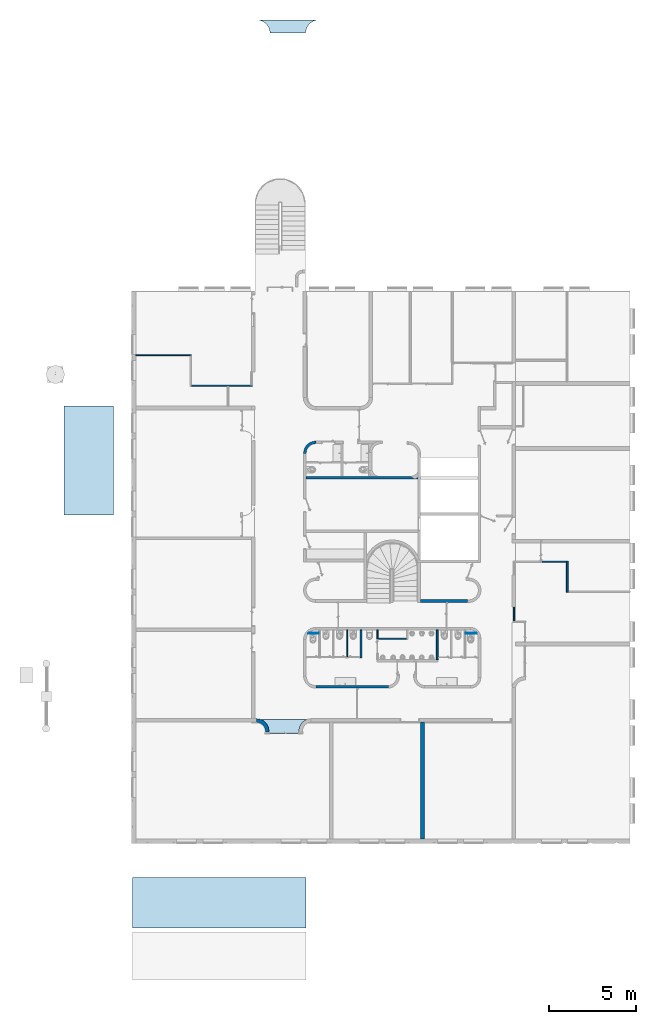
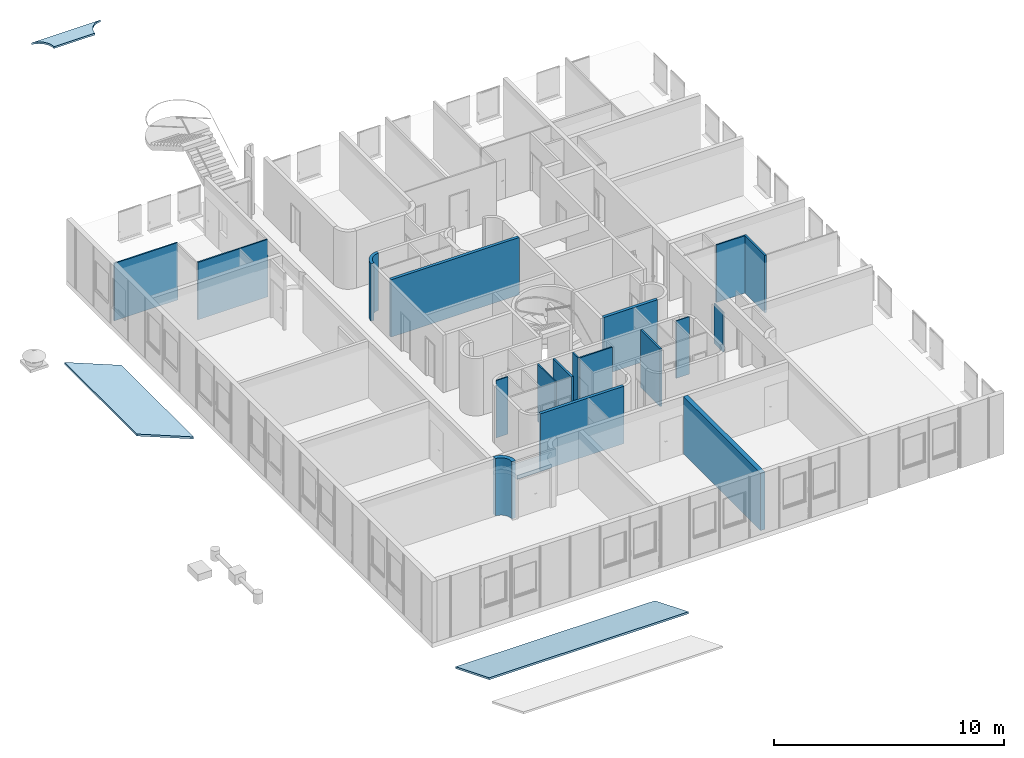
# One storey, part 1 of 4: 18 walls, 4 slabs.
"""IFC2X3 building model written with IfcOpenShell, lengths in metres."""

from ifc_helpers import new_model, entity, si_unit, converted_unit, derived_unit, direction, frame, frame_2d, origin, place, context, subcontext, project, spatial, polyline, circle_curve, parameter, trimmed, segment, composite_curve, rectangle, outline, extrude, clip, halfspace, bounded_halfspace, material, layer, layer_set, layer_usage, type_object, element, save


model = new_model("IFC2X3")

# Units and contexts
model_context = context("Model", 3, precision=1e-05, world=origin(), true_north=direction((6.12303176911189e-17, 1.0)))
body_context = subcontext(model_context, "Body", "Model", "MODEL_VIEW")
ifc_project = project(units=[si_unit("LENGTHUNIT", "METRE"), si_unit("AREAUNIT", "SQUARE_METRE"), si_unit("VOLUMEUNIT", "CUBIC_METRE"), converted_unit("PLANEANGLEUNIT", "DEGREE", entity("IfcRatioMeasure", 0.0174532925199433), si_unit("PLANEANGLEUNIT", "RADIAN"), dimensions=[0, 0, 0, 0, 0, 0, 0]), si_unit("MASSUNIT", "GRAM", prefix="KILO"), derived_unit("MASSDENSITYUNIT", [(si_unit("MASSUNIT", "GRAM", prefix="KILO"), 1), (si_unit("LENGTHUNIT", "METRE"), -3)]), derived_unit("MOMENTOFINERTIAUNIT", [(si_unit("LENGTHUNIT", "METRE"), 4)]), si_unit("TIMEUNIT", "SECOND"), si_unit("FREQUENCYUNIT", "HERTZ"), si_unit("THERMODYNAMICTEMPERATUREUNIT", "DEGREE_CELSIUS"), derived_unit("THERMALTRANSMITTANCEUNIT", [(si_unit("MASSUNIT", "GRAM", prefix="KILO"), 1), (si_unit("THERMODYNAMICTEMPERATUREUNIT", "KELVIN"), -1), (si_unit("TIMEUNIT", "SECOND"), -3)]), derived_unit("VOLUMETRICFLOWRATEUNIT", [(si_unit("LENGTHUNIT", "METRE"), 3), (si_unit("TIMEUNIT", "SECOND"), -1)]), si_unit("ELECTRICCURRENTUNIT", "AMPERE"), si_unit("ELECTRICVOLTAGEUNIT", "VOLT"), si_unit("POWERUNIT", "WATT"), si_unit("FORCEUNIT", "NEWTON", prefix="KILO"), si_unit("ILLUMINANCEUNIT", "LUX"), si_unit("LUMINOUSFLUXUNIT", "LUMEN"), si_unit("LUMINOUSINTENSITYUNIT", "CANDELA"), derived_unit("USERDEFINED", [(si_unit("MASSUNIT", "GRAM", prefix="KILO"), -1), (si_unit("LENGTHUNIT", "METRE"), -2), (si_unit("TIMEUNIT", "SECOND"), 3), (si_unit("LUMINOUSFLUXUNIT", "LUMEN"), 1)]), derived_unit("LINEARVELOCITYUNIT", [(si_unit("LENGTHUNIT", "METRE"), 1), (si_unit("TIMEUNIT", "SECOND"), -1)]), si_unit("PRESSUREUNIT", "PASCAL"), derived_unit("USERDEFINED", [(si_unit("LENGTHUNIT", "METRE"), -2), (si_unit("MASSUNIT", "GRAM", prefix="KILO"), 1), (si_unit("TIMEUNIT", "SECOND"), -2)]), derived_unit("LINEARFORCEUNIT", [(si_unit("MASSUNIT", "GRAM", prefix="KILO"), 1), (si_unit("LENGTHUNIT", "METRE"), 1), (si_unit("TIMEUNIT", "SECOND"), -2), (si_unit("LENGTHUNIT", "METRE"), -1)]), derived_unit("PLANARFORCEUNIT", [(si_unit("MASSUNIT", "GRAM", prefix="KILO"), 1), (si_unit("LENGTHUNIT", "METRE"), 1), (si_unit("TIMEUNIT", "SECOND"), -2), (si_unit("LENGTHUNIT", "METRE"), -2)])], contexts=[model_context])

# Site, building, storey
site_placement = place(None, origin())
site = spatial("IfcSite", under=ifc_project, at=site_placement, Name="Default", CompositionType="ELEMENT")
building_placement = place(site_placement, origin())
building = spatial("IfcBuilding", under=site, at=building_placement, CompositionType="ELEMENT")
storey_placement = place(building_placement, frame((0.0, 0.0, 4.12187276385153)))
storey = spatial("IfcBuildingStorey", under=building, at=storey_placement, Name="Niveau 1", CompositionType="ELEMENT", Elevation=4.12187276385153)

# Slabs
ifc_material_1 = material(Name="Asphalte, bitume")
ifc_layer_1 = layer(ifc_material_1, 0.1)
ifc_layer_set_1 = layer_set([ifc_layer_1], Name="Sol:Générique 100 mm - Plein")
ifc_layer_usage_1 = layer_usage(ifc_layer_set_1, "AXIS3", "POSITIVE", 0.0)
slab_type_1 = type_object("IfcSlabType", Name="Sol:Générique 100 mm - Plein", PredefinedType="FLOOR", material=ifc_layer_set_1)
slab_1_placement = place(storey_placement, origin())
element("IfcSlab", 1, at=slab_1_placement, inside=storey, type_object=slab_type_1, material=ifc_layer_usage_1, Name="Sol:Générique 100 mm - Plein", ObjectType="Sol:Générique 100 mm - Plein", PredefinedType="FLOOR", context=body_context, shape_type="SweptSolid", body=[
    extrude(outline(composite_curve([segment(trimmed(circle_curve(frame_2d((-1.78859422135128, 0.387919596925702), x_axis=(0.0759319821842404, -0.99711299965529)), 0.761524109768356), [parameter(0.0)], [parameter(84.4026734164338)], True, "PARAMETER"), False, "CONTINUOUS"), segment(polyline([(-1.73077018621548, -0.37140599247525), (1.73077018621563, -0.371405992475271)]), True, "CONTINUOUS"), segment(trimmed(circle_curve(frame_2d((1.78859422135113, 0.387919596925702), x_axis=(-0.99976485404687, -0.0216849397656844)), 0.761524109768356), [parameter(0.0)], [parameter(84.4026734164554)], True, "PARAMETER"), False, "CONTINUOUS"), segment(polyline([(1.0272491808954, 0.371405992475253), (-1.02724918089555, 0.37140599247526)]), True, "CONTINUOUS")], self_intersect=False)), frame((-16.8528577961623, 25.820198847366, 0.56983551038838), z_axis=(0.0, 0.0, 1.0), x_axis=(-1.0, 0.0, 0.0)), (0.0, 0.0, -1.0), 0.1),
])
ifc_material_2 = material(Name="Béton, coulé sur place")
ifc_layer_2 = layer(ifc_material_2, 0.2)
ifc_layer_set_2 = layer_set([ifc_layer_2], Name="Sol:Dalle béton 200mm")
ifc_layer_usage_2 = layer_usage(ifc_layer_set_2, "AXIS3", "POSITIVE", 0.0)
slab_type_2 = type_object("IfcSlabType", Name="Sol:Dalle béton 200mm", PredefinedType="FLOOR")
slab_2_placement = place(storey_placement, frame((-19.4581879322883, -14.8878529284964, 2.1)))
element("IfcSlab", 2, at=slab_2_placement, inside=storey, type_object=slab_type_2, material=ifc_layer_usage_2, Name="Sol:Dalle béton 200mm", ObjectType="Sol:Dalle béton 200mm", PredefinedType="FLOOR", context=body_context, shape_type="SweptSolid", body=[
    extrude(outline(composite_curve([segment(polyline([(4.85704727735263, -9.31436889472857), (6.59882761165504, -9.31436889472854)]), True, "CONTINUOUS"), segment(polyline([(6.59882761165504, -9.31436889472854), (6.59882761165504, -9.18780574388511)]), True, "CONTINUOUS"), segment(trimmed(circle_curve(frame_2d((7.30370249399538, -9.20108731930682), x_axis=(-1.0, 0.0)), 0.705), [parameter(270.338353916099)], [parameter(358.920534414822)], True, "PARAMETER"), False, "CONTINUOUS"), segment(polyline([(7.29953921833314, -8.49609961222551), (7.30128770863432, -8.49563110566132)]), True, "CONTINUOUS"), segment(polyline([(7.30128770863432, -8.49563110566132), (4.39101420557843, -8.49563110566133)]), True, "CONTINUOUS"), segment(trimmed(circle_curve(frame_2d((4.15205895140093, -9.15889981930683), x_axis=(-1.0, 0.0)), 0.705), [parameter(179.670273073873)], [parameter(250.187473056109)], True, "PARAMETER"), False, "CONTINUOUS"), segment(polyline([(4.85704727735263, -9.16295694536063), (4.85704727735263, -9.31436889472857)]), True, "CONTINUOUS")], self_intersect=False)), frame((8.11158430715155, 9.31436889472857, 0.2), z_axis=(0.0, 0.0, -1.0), x_axis=(-1.0, 0.0, 0.0)), (0.0, 0.0, 1.0), 0.2),
])
ifc_material_3 = material(Name="étanchéité Isolation")
ifc_layer_3 = layer(ifc_material_3, 0.1)
ifc_layer_set_3 = layer_set([ifc_layer_3], Name="Sol:étanchéité terrasse 100mm")
ifc_layer_usage_3 = layer_usage(ifc_layer_set_3, "AXIS3", "POSITIVE", 0.0)
slab_type_3 = type_object("IfcSlabType", Name="Sol:étanchéité terrasse 100mm", PredefinedType="FLOOR", material=ifc_layer_set_3)
slab_3_placement = place(storey_placement, origin())
element("IfcSlab", 3, at=slab_3_placement, inside=storey, type_object=slab_type_3, material=ifc_layer_usage_3, Name="Sol:étanchéité terrasse 100mm", ObjectType="Sol:étanchéité terrasse 100mm", PredefinedType="FLOOR", context=body_context, shape_type="Clipping", body=[
    clip(clip(extrude(rectangle(XDim=3.13853610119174, YDim=9.99631947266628, at=frame_2d((8.88178419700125e-16, 9.32587340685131e-15), x_axis=(0.0, 1.0))), frame((-20.7958294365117, -24.6235714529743, 0.523417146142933), z_axis=(0.0, -0.374606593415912, -0.927183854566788), x_axis=(1.0, 0.0, 0.0)), (0.0, -0.374606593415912, 0.927183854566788), 0.116323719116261), halfspace(frame((-20.7897946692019, -21.7385714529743, -0.750051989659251), z_axis=(0.0, -0.374606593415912, -0.927183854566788), x_axis=(0.0, -0.927183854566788, 0.374606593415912)), False)), halfspace(frame((-20.7897946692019, -21.7385714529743, -0.642198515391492), z_axis=(0.0, 0.374606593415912, 0.927183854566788), x_axis=(0.0, 0.927183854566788, -0.374606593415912)), False)),
])
ifc_layer_usage_4 = layer_usage(ifc_layer_set_3, "AXIS3", "POSITIVE", 0.0)
slab_type_4 = type_object("IfcSlabType", Name="Sol:étanchéité terrasse 100mm", PredefinedType="FLOOR", material=ifc_layer_set_3)
slab_4_placement = place(storey_placement, origin())
element("IfcSlab", 4, at=slab_4_placement, inside=storey, type_object=slab_type_4, material=ifc_layer_usage_4, Name="Sol:étanchéité terrasse 100mm", ObjectType="Sol:étanchéité terrasse 100mm", PredefinedType="FLOOR", context=body_context, shape_type="Clipping", body=[
    clip(clip(extrude(rectangle(XDim=3.07382401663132, YDim=6.27500000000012, at=frame_2d((4.88498130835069e-15, 2.33146835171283e-15), x_axis=(0.0, 1.0))), frame((-28.3185797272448, 0.844677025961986, 0.423618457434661), z_axis=(-0.374606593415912, 0.0, -0.927183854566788), x_axis=(0.0, 1.0, 0.0)), (0.0, 0.374606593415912, 0.927183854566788), 0.11632371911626), halfspace(frame((-25.3835797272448, -1.10201747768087, -0.870051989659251), z_axis=(-0.374606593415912, 0.0, -0.927183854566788), x_axis=(-0.927183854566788, 0.0, 0.374606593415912)), False)), halfspace(frame((-25.3835797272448, -1.10201747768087, -0.762198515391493), z_axis=(0.374606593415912, 0.0, 0.927183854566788), x_axis=(0.927183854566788, 0.0, -0.374606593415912)), False)),
])

# Walls
ifc_material_4 = material(Name="Verre")
ifc_layer_4 = layer(ifc_material_4, 0.07)
ifc_layer_set_4 = layer_set([ifc_layer_4], Name="Mur de base:Mur en verre 70")
ifc_layer_usage_5 = layer_usage(ifc_layer_set_4, "AXIS2", "NEGATIVE", 0.035)
wall_type_1 = type_object("IfcWallType", Name="Mur de base:Mur en verre 70", PredefinedType="STANDARD", material=ifc_layer_set_4)
wall_1_placement = place(storey_placement, frame((-22.4089891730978, 6.88588486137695, 0.0), z_axis=(0.0, 0.0, 1.0), x_axis=(-1.0, 0.0, 0.0)))
element("IfcWallStandardCase", 5, at=wall_1_placement, inside=storey, type_object=wall_type_1, material=ifc_layer_usage_5, Name="Mur de base:Mur en verre 70", ObjectType="Mur de base:Mur en verre 70", context=body_context, shape_type="Clipping", body=[
    clip(extrude(rectangle(XDim=3.18500000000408, YDim=0.0699999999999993, at=frame_2d((1.59250000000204, -1.42247325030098e-16), x_axis=(-1.0, 0.0))), origin(), (0.0, 0.0, 1.0), 3.04543551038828), bounded_halfspace(frame((0.0, -0.0350000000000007, 3.04543551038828), z_axis=(0.0, 0.0, -1.0), x_axis=(0.0, -1.0, 0.0)), True, frame((0.0, -0.0350000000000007, 3.04543551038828)), polyline([(0.0, 0.0), (3.18500000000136, 0.0), (3.18499999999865, 0.0699999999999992), (0.0699999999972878, 0.0700000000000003), (0.0, 0.0700000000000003), (0.0, 0.0)]))),
])
ifc_layer_usage_6 = layer_usage(ifc_layer_set_4, "AXIS2", "NEGATIVE", 0.035)
wall_2_placement = place(storey_placement, frame((-18.903989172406, 5.13588486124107, 0.0), z_axis=(0.0, 0.0, 1.0), x_axis=(-1.0, 0.0, 0.0)))
element("IfcWallStandardCase", 6, at=wall_2_placement, inside=storey, type_object=wall_type_1, material=ifc_layer_usage_6, Name="Mur de base:Mur en verre 70", ObjectType="Mur de base:Mur en verre 70", context=body_context, shape_type="Clipping", body=[
    clip(extrude(rectangle(XDim=3.5050000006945, YDim=0.0699999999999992, at=frame_2d((1.75250000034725, 1.66533453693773e-16), x_axis=(-1.0, 0.0))), origin(), (0.0, 0.0, 1.0), 3.04543551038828), bounded_halfspace(frame((0.0, -0.0350000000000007, 3.04543551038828), z_axis=(0.0, 0.0, -1.0), x_axis=(0.0, -1.0, 0.0)), True, frame((0.0, -0.0350000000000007, 3.04543551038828)), polyline([(0.0, 0.0), (0.0699999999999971, 0.0), (3.5050000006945, 0.0), (3.50500000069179, 0.0700000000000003), (1.43000000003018, 0.0700000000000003), (1.36000000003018, 0.0700000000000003), (0.0, 0.0700000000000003), (0.0, 0.0)]))),
])
ifc_layer_usage_7 = layer_usage(ifc_layer_set_4, "AXIS2", "NEGATIVE", 0.035)
wall_3_placement = place(storey_placement, frame((-3.82898917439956, -8.41874943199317, 0.0), z_axis=(0.0, 0.0, 1.0), x_axis=(0.0, 1.0, 0.0)))
element("IfcWallStandardCase", 7, at=wall_3_placement, inside=storey, type_object=wall_type_1, material=ifc_layer_usage_7, Name="Mur de base:Mur en verre 70", ObjectType="Mur de base:Mur en verre 70", context=body_context, shape_type="SweptSolid", body=[
    extrude(rectangle(XDim=0.80900093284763, YDim=0.0700000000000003, at=frame_2d((0.404500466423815, -5.89805981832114e-17), x_axis=(-1.0, 0.0))), origin(), (0.0, 0.0, 1.0), 2.1),
])
ifc_material_5 = material(Name="Mur par défaut")
ifc_layer_5 = layer(ifc_material_5, 0.2)
ifc_layer_set_5 = layer_set([ifc_layer_5], Name="Mur de base:@_Générique - Int. 200 mm")
ifc_layer_usage_8 = layer_usage(ifc_layer_set_5, "AXIS2", "NEGATIVE", 0.1)
wall_type_2 = type_object("IfcWallType", Name="Mur de base:@_Générique - Int. 200 mm", PredefinedType="STANDARD", material=ifc_layer_set_5)
wall_4_placement = place(storey_placement, frame((-18.0487427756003, -14.798496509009, 0.0), z_axis=(0.0, 0.0, 1.0), x_axis=(0.976975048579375, -0.213353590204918, 0.0)))
element("IfcWallStandardCase", 8, at=wall_4_placement, inside=storey, type_object=wall_type_2, material=ifc_layer_usage_8, Name="Mur de base:@_Générique - Int. 200 mm", ObjectType="Mur de base:@_Générique - Int. 200 mm", context=body_context, shape_type="Clipping", body=[
    clip(extrude(outline(composite_curve([segment(trimmed(circle_curve(frame_2d((-0.601450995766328, -0.0654346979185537), x_axis=(1.0, 0.0)), 0.505), [parameter(6.20905822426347)], [parameter(101.95370568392)], True, "PARAMETER"), False, "CONTINUOUS"), segment(polyline([(-0.0994133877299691, -0.0108156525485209), (0.0967794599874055, 0.0320292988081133)]), True, "CONTINUOUS"), segment(trimmed(circle_curve(frame_2d((-0.601450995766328, -0.0654346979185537), x_axis=(1.0, 0.0)), 0.705), [parameter(7.94640902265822)], [parameter(101.95370568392)], True, "PARAMETER"), True, "CONTINUOUS"), segment(polyline([(-0.747471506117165, 0.624277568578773), (-0.70604724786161, 0.428614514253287)]), True, "CONTINUOUS")], self_intersect=False)), origin(), (0.0, 0.0, 1.0), 3.04543551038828), halfspace(frame((-0.70604724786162, 0.428614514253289, 3.04543551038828), z_axis=(0.0, 0.0, -1.0), x_axis=(-0.213353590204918, 0.976975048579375, 0.0)), True)),
])
ifc_material_6 = material(Name="Brique 55x220")
ifc_layer_6 = layer(ifc_material_6, 0.01)
ifc_material_7 = material(Name="Maçonnerie - Voile BA")
ifc_layer_7 = layer(ifc_material_7, 0.2)
ifc_layer_8 = layer(ifc_material_6, 0.01)
ifc_layer_set_6 = layer_set([ifc_layer_6, ifc_layer_7, ifc_layer_8], Name="Mur de base:Ext. Voile BA 200 Brique")
ifc_layer_usage_9 = layer_usage(ifc_layer_set_6, "AXIS2", "NEGATIVE", 0.11)
wall_type_3 = type_object("IfcWallType", Name="Mur de base:Ext. Voile BA 200 Brique", PredefinedType="STANDARD", material=ifc_layer_set_6)
wall_5_placement = place(storey_placement, frame((-9.10398917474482, -20.9562530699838, 0.0), z_axis=(0.0, 0.0, 1.0), x_axis=(0.0, 1.0, 0.0)))
element("IfcWallStandardCase", 9, at=wall_5_placement, inside=storey, type_object=wall_type_3, material=ifc_layer_usage_9, Name="Mur de base:Ext. Voile BA 200 Brique", ObjectType="Mur de base:Ext. Voile BA 200 Brique", context=body_context, shape_type="Clipping", body=[
    clip(extrude(rectangle(XDim=6.72713793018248, YDim=0.22, at=frame_2d((3.36356896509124, 0.0), x_axis=(-1.0, 0.0))), origin(), (0.0, 0.0, 1.0), 3.04543551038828), bounded_halfspace(frame((0.0, -0.11, 3.04543551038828), z_axis=(0.0, 0.0, -1.0), x_axis=(1.0, 0.0, 0.0)), True, frame((0.0, -0.11, 3.04543551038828)), polyline([(0.0, 0.0), (6.72713793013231, 0.0), (6.72713793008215, 0.219999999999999), (0.0, 0.22), (0.0, 0.0)]))),
])
ifc_layer_9 = layer(ifc_material_5, 0.1)
ifc_layer_set_7 = layer_set([ifc_layer_9], Name="Mur de base:@_Générique - Int. 100 mm")
ifc_layer_usage_10 = layer_usage(ifc_layer_set_7, "AXIS2", "NEGATIVE", 0.05)
wall_type_4 = type_object("IfcWallType", Name="Mur de base:@_Générique - Int. 100 mm", PredefinedType="STANDARD", material=ifc_layer_set_7)
wall_6_placement = place(storey_placement, frame((-0.765394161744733, -4.95411514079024, 0.0), z_axis=(0.0, 0.0, 1.0), x_axis=(0.0, -1.0, 0.0)))
element("IfcWallStandardCase", 10, at=wall_6_placement, inside=storey, type_object=wall_type_4, material=ifc_layer_usage_10, Name="Mur de base:@_Générique - Int. 100 mm", ObjectType="Mur de base:@_Générique - Int. 100 mm", context=body_context, shape_type="Clipping", body=[
    clip(extrude(rectangle(XDim=1.80247978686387, YDim=0.1, at=frame_2d((0.901239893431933, 3.46944695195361e-18), x_axis=(-1.0, 0.0))), origin(), (0.0, 0.0, 1.0), 3.04543551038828), bounded_halfspace(frame((0.0, -0.0499999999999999, 3.04543551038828), z_axis=(0.0, 0.0, -1.0), x_axis=(-1.0, 0.0, 0.0)), True, frame((0.0, -0.0499999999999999, 3.04543551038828)), polyline([(0.0, 0.0), (0.0700000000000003, 0.0), (1.80247978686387, 0.0), (1.80247978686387, 0.100000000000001), (1.73247978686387, 0.1), (0.0, 0.1), (0.0, 0.0)]))),
])
ifc_layer_usage_11 = layer_usage(ifc_layer_set_7, "AXIS2", "NEGATIVE", 0.05)
wall_7_placement = place(storey_placement, frame((-8.25498988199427, -10.6329401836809, 0.0), z_axis=(0.0, 0.0, 1.0), x_axis=(0.0, 1.0, 0.0)))
element("IfcWallStandardCase", 11, at=wall_7_placement, inside=storey, type_object=wall_type_4, material=ifc_layer_usage_11, Name="Mur de base:@_Générique - Int. 100 mm", ObjectType="Mur de base:@_Générique - Int. 100 mm", context=body_context, shape_type="Clipping", body=[
    clip(extrude(rectangle(XDim=1.71168232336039, YDim=0.0999999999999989, at=frame_2d((0.855841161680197, -1.42247325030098e-16), x_axis=(-1.0, 0.0))), origin(), (0.0, 0.0, 1.0), 3.04543551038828), bounded_halfspace(frame((0.0, -0.0500000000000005, 3.04543551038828), z_axis=(0.0, 0.0, -1.0), x_axis=(1.0, 0.0, 0.0)), True, frame((0.0, -0.0500000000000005, 3.04543551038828)), polyline([(0.0, 0.0), (0.0863721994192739, 0.0), (0.156372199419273, 0.0), (1.71168232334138, 0.0), (1.71168232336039, 0.0999999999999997), (0.0, 0.1), (0.0, 0.0)]))),
])
ifc_layer_usage_12 = layer_usage(ifc_layer_set_7, "AXIS2", "NEGATIVE", 0.05)
wall_8_placement = place(storey_placement, frame((-12.6408984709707, -10.5247074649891, 0.0), z_axis=(0.0, 0.0, 1.0), x_axis=(-9.91412450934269e-09, 1.0, 0.0)))
element("IfcWallStandardCase", 12, at=wall_8_placement, inside=storey, type_object=wall_type_4, material=ifc_layer_usage_12, Name="Mur de base:@_Générique - Int. 100 mm", ObjectType="Mur de base:@_Générique - Int. 100 mm", context=body_context, shape_type="Clipping", body=[
    clip(extrude(rectangle(XDim=1.60344960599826, YDim=0.0999999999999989, at=frame_2d((0.801724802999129, 5.89805981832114e-17), x_axis=(-1.0, 0.0))), origin(), (0.0, 0.0, 1.0), 3.04543551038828), bounded_halfspace(frame((0.0, -0.0500000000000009, 3.04543551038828), z_axis=(0.0, 0.0, -1.0), x_axis=(1.0, -9.91412450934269e-09, 0.0)), True, frame((0.0, -0.0500000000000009, 3.04543551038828)), polyline([(0.0, 0.0), (1.60344960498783, 0.0), (1.60344960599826, 0.100000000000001), (0.0700000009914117, 0.100000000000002), (0.0, 0.100000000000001), (0.0, 0.0)]))),
])
ifc_layer_10 = layer(ifc_material_7, 0.15)
ifc_layer_set_8 = layer_set([ifc_layer_10], Name="Mur de base:Ext. Voile BA 150")
ifc_layer_usage_13 = layer_usage(ifc_layer_set_8, "AXIS2", "NEGATIVE", 0.075)
wall_type_5 = type_object("IfcWallType", Name="Mur de base:Ext. Voile BA 150", PredefinedType="STANDARD", material=ifc_layer_set_8)
wall_9_placement = place(storey_placement, frame((-9.21398916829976, -7.25411513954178, 0.0)))
element("IfcWallStandardCase", 13, at=wall_9_placement, inside=storey, type_object=wall_type_5, material=ifc_layer_usage_13, Name="Mur de base:Ext. Voile BA 150", ObjectType="Mur de base:Ext. Voile BA 150", context=body_context, shape_type="Clipping", body=[
    clip(extrude(outline(polyline([(2.69648352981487, -0.0749999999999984), (2.70600675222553, 0.0750000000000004), (0.0, 0.0750000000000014), (0.0, -0.0749999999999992), (1.47999999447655, -0.0749999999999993), (1.57999999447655, -0.0749999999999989), (2.69648352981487, -0.0749999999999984)])), origin(), (0.0, 0.0, 1.0), 3.04543551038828), bounded_halfspace(frame((2.70600675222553, 0.0750000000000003, 3.04543551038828), z_axis=(0.0, 0.0, -1.0), x_axis=(0.0, 1.0, 0.0)), True, frame((2.70600675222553, 0.0750000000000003, 3.04543551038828)), polyline([(0.0, 0.0), (-2.70600675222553, 0.0), (-2.70600675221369, -0.149999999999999), (-1.22600675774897, -0.149999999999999), (-1.16800675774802, -0.149999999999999), (-1.12600675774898, -0.149999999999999), (-0.00952322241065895, -0.149999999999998), (0.0, 0.0)]))),
])
ifc_layer_usage_14 = layer_usage(ifc_layer_set_8, "AXIS2", "NEGATIVE", 0.075)
wall_10_placement = place(storey_placement, frame((-9.36398917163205, -0.159115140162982, 0.0), z_axis=(0.0, 0.0, 1.0), x_axis=(-1.0, 0.0, 0.0)))
element("IfcWallStandardCase", 14, at=wall_10_placement, inside=storey, type_object=wall_type_5, material=ifc_layer_usage_14, Name="Mur de base:Ext. Voile BA 150", ObjectType="Mur de base:Ext. Voile BA 150", context=body_context, shape_type="Clipping", body=[
    clip(extrude(rectangle(XDim=6.42999999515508, YDim=0.15, at=frame_2d((3.21499999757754, 0.0), x_axis=(-1.0, 0.0))), origin(), (0.0, 0.0, 1.0), 3.04543551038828), bounded_halfspace(frame((0.0, -0.075, 3.04543551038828), z_axis=(0.0, 0.0, -1.0), x_axis=(0.0, -1.0, 0.0)), True, frame((0.0, -0.075, 3.04543551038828)), polyline([(0.0, 0.0), (2.26786635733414, 0.0), (2.65523052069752, 0.0), (2.84286464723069, 0.0), (4.31459055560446, 0.0), (4.41459055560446, 0.0), (6.42999999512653, 0.0), (6.4299999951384, 0.15), (0.0, 0.15), (0.0, 0.0)]))),
])
ifc_layer_usage_15 = layer_usage(ifc_layer_set_8, "AXIS2", "NEGATIVE", 0.075)
wall_11_placement = place(storey_placement, frame((-15.2439891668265, 1.87594568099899, 0.0), z_axis=(0.0, 0.0, 1.0), x_axis=(0.0, 1.0, 0.0)))
element("IfcWallStandardCase", 15, at=wall_11_placement, inside=storey, type_object=wall_type_5, material=ifc_layer_usage_15, Name="Mur de base:Ext. Voile BA 150", ObjectType="Mur de base:Ext. Voile BA 150", context=body_context, shape_type="Clipping", body=[
    clip(extrude(outline(composite_curve([segment(trimmed(circle_curve(frame_2d((-0.624999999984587, 0.0), x_axis=(1.0, 0.0)), 0.549999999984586), [parameter(359.999999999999)], [parameter(90.0000000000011)], True, "PARAMETER"), False, "CONTINUOUS"), segment(polyline([(-0.075, 0.0), (0.075, 0.0)]), True, "CONTINUOUS"), segment(trimmed(circle_curve(frame_2d((-0.624999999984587, 0.0), x_axis=(1.0, 0.0)), 0.699999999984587), [parameter(359.999999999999)], [parameter(90.0000000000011)], True, "PARAMETER"), True, "CONTINUOUS"), segment(polyline([(-0.624999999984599, 0.699999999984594), (-0.6249999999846, 0.549999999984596)]), True, "CONTINUOUS")], self_intersect=False)), origin(), (0.0, 0.0, 1.0), 3.04543551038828), halfspace(frame((-0.624999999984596, 0.549999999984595, 3.04543551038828), z_axis=(0.0, 0.0, -1.0), x_axis=(1.0, 0.0, 0.0)), True)),
])
ifc_layer_usage_16 = layer_usage(ifc_layer_set_8, "AXIS2", "NEGATIVE", 0.075)
wall_12_placement = place(storey_placement, frame((-11.0532032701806, -12.1941151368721, 0.0), z_axis=(0.0, 0.0, 1.0), x_axis=(-1.0, 0.0, 0.0)))
element("IfcWallStandardCase", 16, at=wall_12_placement, inside=storey, type_object=wall_type_5, material=ifc_layer_usage_16, Name="Mur de base:Ext. Voile BA 150", ObjectType="Mur de base:Ext. Voile BA 150", context=body_context, shape_type="Clipping", body=[
    clip(extrude(outline(polyline([(0.00618195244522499, -0.0750000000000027), (4.19078589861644, -0.0750000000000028), (4.19078589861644, 0.0749999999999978), (1.82834806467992, 0.0749999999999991), (1.75834806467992, 0.0749999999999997), (0.0, 0.0749999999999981), (0.00618195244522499, -0.0750000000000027)])), origin(), (0.0, 0.0, 1.0), 3.04543551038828), bounded_halfspace(frame((0.00618195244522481, -0.0750000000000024, 3.04543551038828), z_axis=(0.0, 0.0, -1.0), x_axis=(0.0, -1.0, 0.0)), True, frame((0.00618195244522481, -0.0750000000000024, 3.04543551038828)), polyline([(0.0, 0.0), (4.18460394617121, 0.0), (4.18460394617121, 0.150000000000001), (1.8221661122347, 0.150000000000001), (1.7521661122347, 0.150000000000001), (-0.00618195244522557, 0.150000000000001), (0.0, 0.0)]))),
])
ifc_layer_11 = layer(ifc_material_5, 0.07)
ifc_layer_set_9 = layer_set([ifc_layer_11], Name="Mur de base:@_Générique - Int. 70 mm")
ifc_layer_usage_17 = layer_usage(ifc_layer_set_9, "AXIS2", "NEGATIVE", 0.035)
wall_type_6 = type_object("IfcWallType", Name="Mur de base:@_Générique - Int. 70 mm", PredefinedType="STANDARD", material=ifc_layer_set_9)
wall_13_placement = place(storey_placement, frame((-11.6519512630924, -9.42086382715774, 0.0)))
element("IfcWallStandardCase", 17, at=wall_13_placement, inside=storey, type_object=wall_type_6, material=ifc_layer_usage_17, Name="Mur de base:@_Générique - Int. 70 mm", ObjectType="Mur de base:@_Générique - Int. 70 mm", context=body_context, shape_type="Clipping", body=[
    clip(extrude(rectangle(XDim=1.63688792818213, YDim=0.0699999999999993, at=frame_2d((0.818443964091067, -1.14491749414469e-16), x_axis=(-1.0, 0.0))), origin(), (0.0, 0.0, 1.0), 3.04543551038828), bounded_halfspace(frame((0.0, -0.0350000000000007, 3.04543551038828), z_axis=(0.0, 0.0, -1.0), x_axis=(0.0, 1.0, 0.0)), True, frame((0.0, -0.0350000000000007, 3.04543551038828)), polyline([(0.0, 0.0), (1.63688792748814, 0.0), (1.63688792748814, 0.0700000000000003), (0.0, 0.0700000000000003), (0.0, 0.0350000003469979), (0.0, 0.0)]))),
])
ifc_layer_usage_18 = layer_usage(ifc_layer_set_9, "AXIS2", "NEGATIVE", 0.035)
wall_14_placement = place(storey_placement, frame((-13.4397470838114, -10.4547074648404, 0.0), z_axis=(0.0, 0.0, 1.0), x_axis=(-9.91412450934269e-09, 1.0, 0.0)))
element("IfcWallStandardCase", 18, at=wall_14_placement, inside=storey, type_object=wall_type_6, material=ifc_layer_usage_18, Name="Mur de base:@_Générique - Int. 70 mm", ObjectType="Mur de base:@_Générique - Int. 70 mm", context=body_context, shape_type="Clipping", body=[
    clip(extrude(rectangle(XDim=1.53344960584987, YDim=0.0700000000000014, at=frame_2d((0.766724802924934, 4.75314232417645e-16), x_axis=(-1.0, 0.0))), origin(), (0.0, 0.0, 1.0), 3.04543551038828), bounded_halfspace(frame((0.0, -0.0349999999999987, 3.04543551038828), z_axis=(0.0, 0.0, -1.0), x_axis=(1.0, -9.91412450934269e-09, 0.0)), True, frame((0.0, -0.0349999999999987, 3.04543551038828)), polyline([(0.0, 0.0), (1.53344960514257, 0.0), (1.53344960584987, 0.0700000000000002), (0.0, 0.0699999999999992), (0.0, 0.0)]))),
])
ifc_layer_usage_19 = layer_usage(ifc_layer_set_9, "AXIS2", "NEGATIVE", 0.035)
wall_15_placement = place(storey_placement, frame((-2.24039416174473, -4.98911514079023, 0.0)))
element("IfcWallStandardCase", 19, at=wall_15_placement, inside=storey, type_object=wall_type_6, material=ifc_layer_usage_19, Name="Mur de base:@_Générique - Int. 70 mm", ObjectType="Mur de base:@_Générique - Int. 70 mm", context=body_context, shape_type="Clipping", body=[
    clip(extrude(rectangle(XDim=1.425, YDim=0.0699999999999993, at=frame_2d((0.712500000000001, 3.36536354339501e-16), x_axis=(-1.0, 0.0))), origin(), (0.0, 0.0, 1.0), 3.04543551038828), bounded_halfspace(frame((0.0, -0.0350000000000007, 3.04543551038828), z_axis=(0.0, 0.0, -1.0), x_axis=(0.0, 1.0, 0.0)), True, frame((0.0, -0.0350000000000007, 3.04543551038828)), polyline([(0.0, 0.0), (1.425, 0.0), (1.425, 0.0700000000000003), (0.0, 0.0700000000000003), (0.0, 0.0)]))),
])
ifc_layer_usage_20 = layer_usage(ifc_layer_set_9, "AXIS2", "NEGATIVE", 0.035)
wall_16_placement = place(storey_placement, frame((-11.6869512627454, -9.42086382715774, 0.0), z_axis=(0.0, 0.0, 1.0), x_axis=(-9.91412450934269e-09, 1.0, 0.0)))
element("IfcWallStandardCase", 20, at=wall_16_placement, inside=storey, type_object=wall_type_6, material=ifc_layer_usage_20, Name="Mur de base:@_Générique - Int. 70 mm", ObjectType="Mur de base:@_Générique - Int. 70 mm", context=body_context, shape_type="Clipping", body=[
    clip(extrude(rectangle(XDim=0.499605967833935, YDim=0.0700000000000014, at=frame_2d((0.249802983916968, -1.21430643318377e-16), x_axis=(-1.0, 0.0))), origin(), (0.0, 0.0, 1.0), 3.04543551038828), bounded_halfspace(frame((0.0, -0.0349999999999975, 3.04543551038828), z_axis=(0.0, 0.0, -1.0), x_axis=(1.0, -9.91412450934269e-09, 0.0)), True, frame((0.0, -0.0349999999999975, 3.04543551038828)), polyline([(0.0, 0.0), (0.0349999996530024, 0.0), (0.499605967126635, 0.0), (0.499605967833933, 0.069999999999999), (0.0, 0.0699999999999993), (0.0, 0.0)]))),
])
ifc_layer_12 = layer(ifc_material_5, 0.05)
ifc_layer_set_10 = layer_set([ifc_layer_12], Name="Mur de base:@_Générique - Int. 50 mm")
ifc_layer_usage_21 = layer_usage(ifc_layer_set_10, "AXIS2", "NEGATIVE", 0.025)
wall_type_7 = type_object("IfcWallType", Name="Mur de base:@_Générique - Int. 50 mm", PredefinedType="STANDARD", material=ifc_layer_set_10)
wall_17_placement = place(storey_placement, frame((-6.62401066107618, -9.10366802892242, 0.0)))
element("IfcWallStandardCase", 21, at=wall_17_placement, inside=storey, type_object=wall_type_7, material=ifc_layer_usage_21, Name="Mur de base:@_Générique - Int. 50 mm", ObjectType="Mur de base:@_Générique - Int. 50 mm", context=body_context, shape_type="Clipping", body=[
    clip(extrude(outline(composite_curve([segment(trimmed(circle_curve(frame_2d((0.280021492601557, -0.26758983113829), x_axis=(0.0, 1.0)), 0.449999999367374), [parameter(302.621611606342)], [parameter(310.556654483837)], True, "PARAMETER"), True, "CONTINUOUS"), segment(polyline([(0.621915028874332, 0.0249999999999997), (0.0, 0.0249999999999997)]), True, "CONTINUOUS"), segment(polyline([(0.0, 0.0249999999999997), (0.0, -0.0250000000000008)]), True, "CONTINUOUS"), segment(polyline([(0.0, -0.0250000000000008), (0.659033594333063, -0.0250000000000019)]), True, "CONTINUOUS")], self_intersect=False)), origin(), (0.0, 0.0, 1.0), 3.04543551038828), bounded_halfspace(frame((0.0, -0.0250000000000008, 3.04543551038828), z_axis=(0.0, 0.0, -1.0), x_axis=(0.0, 1.0, 0.0)), True, frame((0.0, -0.0250000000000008, 3.04543551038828)), composite_curve([segment(polyline([(0.0, 0.0), (0.200873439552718, 0.0)]), True, "CONTINUOUS"), segment(trimmed(circle_curve(frame_2d((0.0853505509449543, -0.0739413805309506), x_axis=(0.0, 1.0)), 0.449999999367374), [parameter(302.621611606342)], [parameter(310.556654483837)], True, "PARAMETER"), True, "CONTINUOUS"), segment(polyline([(0.189559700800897, 0.0152400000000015), (0.0, 0.0152400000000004)]), True, "CONTINUOUS"), segment(polyline([(0.0, 0.0152400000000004), (0.0, 0.0)]), True, "CONTINUOUS")], self_intersect=False))),
])
ifc_layer_usage_22 = layer_usage(ifc_layer_set_10, "AXIS2", "NEGATIVE", 0.025)
wall_18_placement = place(storey_placement, frame((-15.6742590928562, -9.10366802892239, 0.0)))
element("IfcWallStandardCase", 22, at=wall_18_placement, inside=storey, type_object=wall_type_7, material=ifc_layer_usage_22, Name="Mur de base:@_Générique - Int. 50 mm", ObjectType="Mur de base:@_Générique - Int. 50 mm", context=body_context, shape_type="Clipping", body=[
    clip(extrude(outline(composite_curve([segment(polyline([(0.614511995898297, -0.0249999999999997), (0.614511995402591, 0.0249999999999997)]), True, "CONTINUOUS"), segment(polyline([(0.614511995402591, 0.0249999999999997), (0.0450774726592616, 0.0249999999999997)]), True, "CONTINUOUS"), segment(trimmed(circle_curve(frame_2d((0.430269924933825, -0.36758983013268), x_axis=(-1.0, 0.0)), 0.550000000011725), [parameter(314.455084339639)], [parameter(321.472469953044)], True, "PARAMETER"), True, "CONTINUOUS"), segment(polyline([(0.0, -0.0249999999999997), (0.614511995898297, -0.0249999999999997)]), True, "CONTINUOUS")], self_intersect=False)), origin(), (0.0, 0.0, 1.0), 3.04543551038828), bounded_halfspace(frame((0.0, -0.0249999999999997, 3.04543551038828), z_axis=(0.0, 0.0, -1.0), x_axis=(0.0, 1.0, 0.0)), True, frame((0.0, -0.0249999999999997, 3.04543551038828)), composite_curve([segment(polyline([(0.0, 0.0), (0.1873032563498, 0.0)]), True, "CONTINUOUS"), segment(polyline([(0.1873032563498, 0.0), (0.187303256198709, 0.0152399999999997)]), True, "CONTINUOUS"), segment(polyline([(0.187303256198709, 0.0152399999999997), (0.0137396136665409, 0.0152400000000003)]), True, "CONTINUOUS"), segment(trimmed(circle_curve(frame_2d((0.131146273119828, -0.104421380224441), x_axis=(-1.0, 0.0)), 0.550000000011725), [parameter(314.455084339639)], [parameter(321.472469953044)], True, "PARAMETER"), True, "CONTINUOUS")], self_intersect=False))),
])

save(model, "model.ifc")
